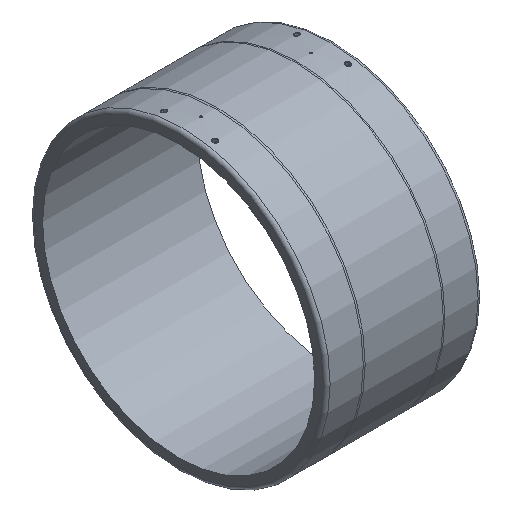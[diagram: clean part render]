
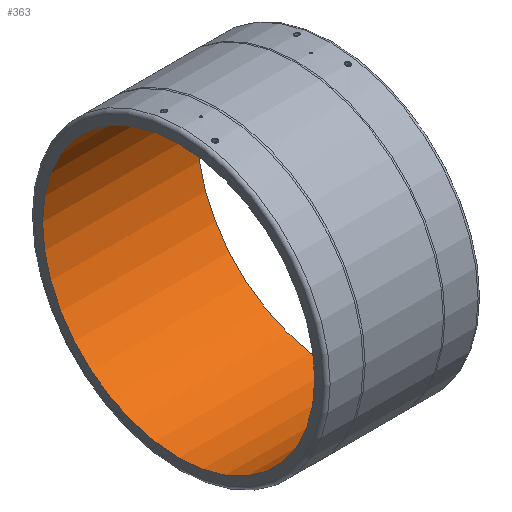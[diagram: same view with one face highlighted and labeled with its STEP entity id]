
A CAD part, isometric view. The second image highlights one B-rep face of the part: STEP entity #363.
In plain terms, the highlighted cylindrical face has radius 400 mm (diameter 800 mm), a full revolution.
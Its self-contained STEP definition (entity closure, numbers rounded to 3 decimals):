
#43=CIRCLE('',#414,400.);
#44=CIRCLE('',#415,400.);
#72=ORIENTED_EDGE('',*,*,#139,.T.);
#73=ORIENTED_EDGE('',*,*,#140,.F.);
#139=EDGE_CURVE('',#173,#173,#43,.T.);
#140=EDGE_CURVE('',#174,#174,#44,.T.);
#173=VERTEX_POINT('',#663);
#174=VERTEX_POINT('',#665);
#218=EDGE_LOOP('',(#72));
#219=EDGE_LOOP('',(#73));
#286=FACE_BOUND('',#218,.T.);
#287=FACE_BOUND('',#219,.T.);
#348=CYLINDRICAL_SURFACE('',#413,400.);
#363=ADVANCED_FACE('',(#286,#287),#348,.F.);
#413=AXIS2_PLACEMENT_3D('',#661,#475,#476);
#414=AXIS2_PLACEMENT_3D('',#662,#477,#478);
#415=AXIS2_PLACEMENT_3D('',#664,#479,#480);
#475=DIRECTION('',(-1.,0.,0.));
#476=DIRECTION('',(0.,0.,1.));
#477=DIRECTION('',(-1.,0.,0.));
#478=DIRECTION('',(0.,0.,1.));
#479=DIRECTION('',(-1.,0.,0.));
#480=DIRECTION('',(0.,0.,1.));
#661=CARTESIAN_POINT('',(-221.69,0.,0.));
#662=CARTESIAN_POINT('',(-227.5,0.,0.));
#663=CARTESIAN_POINT('',(-227.5,0.,400.));
#664=CARTESIAN_POINT('',(227.5,0.,0.));
#665=CARTESIAN_POINT('',(227.5,0.,400.));
